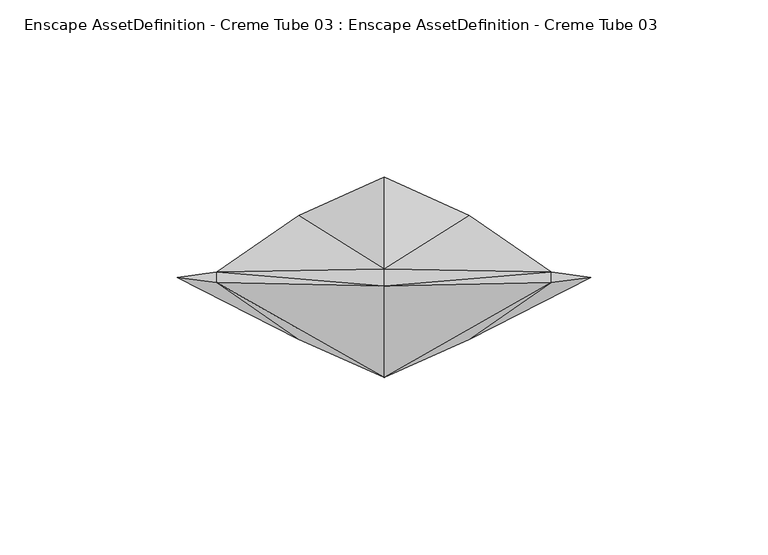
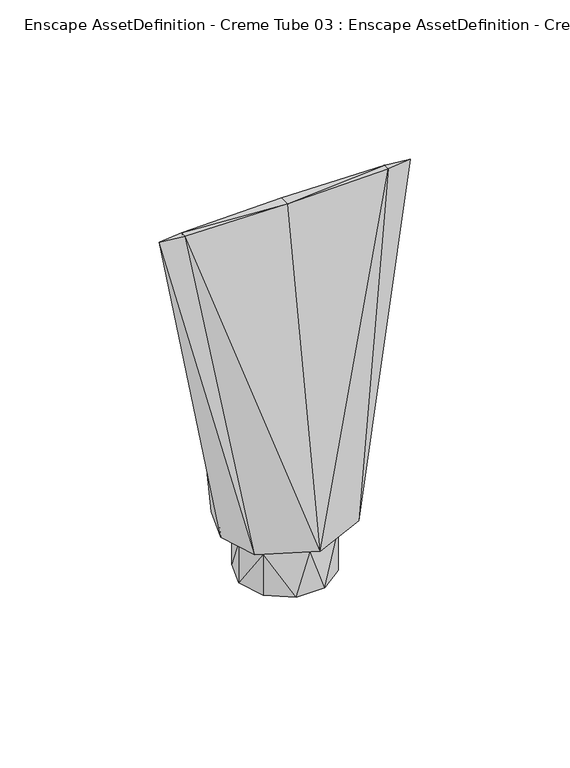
"""IFC4 building model written with IfcOpenShell, lengths in millimetres: geographic element geometry, Enscape AssetDefinition - Creme Tube 03 : Enscape AssetDefinition - Creme Tube 03."""

from ifc_helpers import new_model, si_unit, origin, place, context, project, spatial, faceted_brep, source, transform, mapped, element, save


def enscape_assetdefinition_creme_tube_03_enscape_327f051b(model_context):
    return source(origin(), model_context, "Body", "Brep", [
        faceted_brep([(24.0702145, 17.4876433, 25.0955466), (21.5635709, 0.0, 20.0965088), (17.4455158, 12.6750879, 20.0965088), (29.7519788, 0.0, 25.0955466), (17.4455158, -12.6750879, 20.0965088), (17.4455158, 12.6750879, 0.0), (21.5635709, 0.0, 0.0), (24.0702145, -17.4876433, 25.0955466), (47.1838638, 1.4794521, 180.0000072), (58.3225042, 0.0, 180.0000072), (0.0, -28.2960683, 25.0955466), (47.1838638, -1.4794521, 180.0000072), (0.0, 2.3945067, 180.0000072), (0.0, -2.3945067, 180.0000072), (-47.1838638, -1.4794521, 180.0000072), (-47.1838638, 1.4794521, 180.0000072), (0.0, 28.2960683, 25.0955466), (-24.0702145, 17.4876433, 25.0955466), (-29.7519788, 0.0, 25.0955466), (-58.3225042, 0.0, 180.0000072), (-24.0702145, -17.4876433, 25.0955466), (-21.5635709, 0.0, 20.0965088), (-17.4455158, -12.6750879, 20.0965088), (-17.4455158, 12.6750879, 20.0965088), (-17.4455158, 12.6750879, 0.0), (-21.5635709, 0.0, 0.0), (0.0, 20.5084998, 20.0965088), (-6.6637299, 20.5084998, 0.0), (-17.4455158, -12.6750879, 0.0), (-6.6637299, -20.5084998, 0.0), (6.6637299, 20.5084998, 0.0), (17.4455158, -12.6750879, 0.0), (6.6637299, -20.5084998, 0.0), (0.0, -20.5084998, 20.0965088)], [[[0, 1, 2]], [[1, 0, 3]], [[3, 4, 1]], [[5, 1, 6]], [[1, 5, 2]], [[4, 6, 1]], [[4, 3, 7]], [[8, 3, 0]], [[3, 8, 9]], [[9, 7, 3]], [[10, 4, 7]], [[11, 10, 7]], [[7, 9, 11]], [[8, 11, 9]], [[0, 12, 8]], [[13, 8, 12]], [[8, 13, 11]], [[10, 11, 13]], [[14, 10, 13]], [[15, 13, 12]], [[13, 15, 14]], [[12, 0, 16]], [[12, 17, 15]], [[17, 12, 16]], [[15, 18, 19]], [[18, 15, 17]], [[14, 15, 19]], [[10, 14, 20]], [[19, 20, 14]], [[20, 19, 18]], [[17, 21, 18]], [[18, 22, 20]], [[22, 18, 21]], [[21, 17, 23]], [[16, 23, 17]], [[24, 21, 23]], [[21, 24, 25]], [[25, 22, 21]], [[23, 16, 26]], [[27, 23, 26]], [[23, 27, 24]], [[27, 25, 24]], [[22, 25, 28]], [[25, 29, 28]], [[5, 25, 27]], [[5, 29, 25]], [[27, 26, 30]], [[5, 27, 30]], [[16, 2, 26]], [[2, 30, 26]], [[30, 2, 5]], [[5, 6, 31]], [[5, 31, 29]], [[6, 4, 31]], [[4, 32, 31]], [[29, 31, 32]], [[4, 10, 33]], [[32, 4, 33]], [[32, 33, 29]], [[10, 22, 33]], [[22, 29, 33]], [[22, 10, 20]], [[29, 22, 28]], [[2, 16, 0]]]),
    ])


if __name__ == "__main__":
    model = new_model("IFC4")
    model_context = context("Model", 3, world=origin())
    ifc_project = project(units=[si_unit("LENGTHUNIT", "METRE", prefix="MILLI")], contexts=[model_context])
    site = spatial("IfcSite", under=ifc_project)
    building = spatial("IfcBuilding", under=site)
    placement = place(None, origin())
    enscape_assetdefinition_creme_tube_03_enscape_shape = enscape_assetdefinition_creme_tube_03_enscape_327f051b(model_context)
    element("IfcGeographicElement", 1, ObjectType="Enscape AssetDefinition - Creme Tube 03 : Enscape AssetDefinition - Creme Tube 03", at=placement, inside=building, context=model_context, shape_type="MappedRepresentation", body=[
        mapped(enscape_assetdefinition_creme_tube_03_enscape_shape, transform((0.0, 0.0, 0.0), x_axis=(1.0, 0.0, 0.0), y_axis=(0.0, 1.0, 0.0), z_axis=(0.0, 0.0, 1.0))),
    ])
    save(model, "model.ifc")
